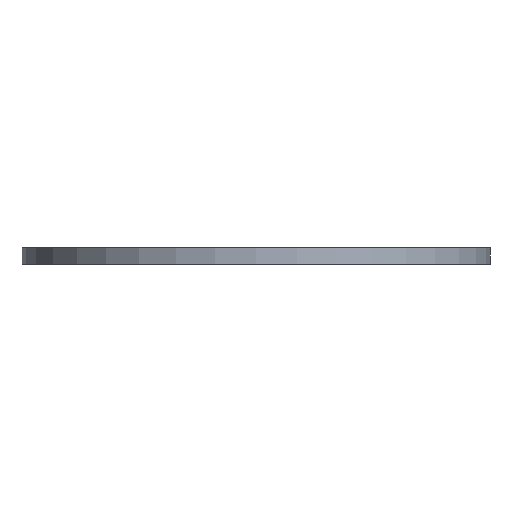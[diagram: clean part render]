
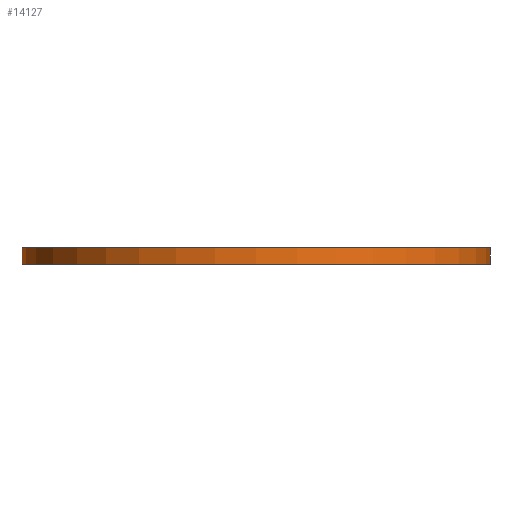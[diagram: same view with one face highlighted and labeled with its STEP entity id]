
A CAD part, front view. The second image highlights one B-rep face of the part: STEP entity #14127.
In plain terms, the highlighted cylindrical face has radius 21 mm (diameter 42 mm), a full revolution.
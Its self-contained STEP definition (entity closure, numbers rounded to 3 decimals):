
#14127 = ADVANCED_FACE('',(#14128),#14155,.T.);
#14128 = FACE_BOUND('',#14129,.F.);
#14129 = EDGE_LOOP('',(#14130,#14140,#14147,#14148));
#14130 = ORIENTED_EDGE('',*,*,#14131,.T.);
#14131 = EDGE_CURVE('',#14132,#14134,#14136,.T.);
#14132 = VERTEX_POINT('',#14133);
#14133 = CARTESIAN_POINT('',(173.4,-101.6,0.));
#14134 = VERTEX_POINT('',#14135);
#14135 = CARTESIAN_POINT('',(173.4,-101.6,1.51));
#14136 = LINE('',#14137,#14138);
#14137 = CARTESIAN_POINT('',(173.4,-101.6,0.));
#14138 = VECTOR('',#14139,1.);
#14139 = DIRECTION('',(0.,0.,1.));
#14140 = ORIENTED_EDGE('',*,*,#14141,.T.);
#14141 = EDGE_CURVE('',#14134,#14134,#14142,.T.);
#14142 = CIRCLE('',#14143,21.);
#14143 = AXIS2_PLACEMENT_3D('',#14144,#14145,#14146);
#14144 = CARTESIAN_POINT('',(152.4,-101.6,1.51));
#14145 = DIRECTION('',(0.,0.,1.));
#14146 = DIRECTION('',(1.,0.,-0.));
#14147 = ORIENTED_EDGE('',*,*,#14131,.F.);
#14148 = ORIENTED_EDGE('',*,*,#14149,.F.);
#14149 = EDGE_CURVE('',#14132,#14132,#14150,.T.);
#14150 = CIRCLE('',#14151,21.);
#14151 = AXIS2_PLACEMENT_3D('',#14152,#14153,#14154);
#14152 = CARTESIAN_POINT('',(152.4,-101.6,0.));
#14153 = DIRECTION('',(0.,0.,1.));
#14154 = DIRECTION('',(1.,0.,-0.));
#14155 = CYLINDRICAL_SURFACE('',#14156,21.);
#14156 = AXIS2_PLACEMENT_3D('',#14157,#14158,#14159);
#14157 = CARTESIAN_POINT('',(152.4,-101.6,0.));
#14158 = DIRECTION('',(-0.,-0.,-1.));
#14159 = DIRECTION('',(1.,0.,-0.));
